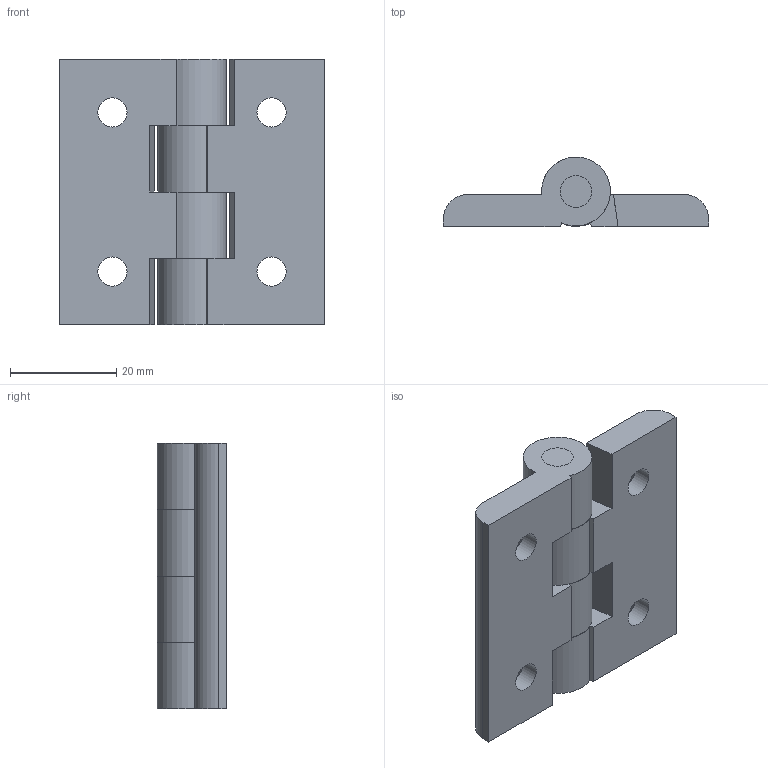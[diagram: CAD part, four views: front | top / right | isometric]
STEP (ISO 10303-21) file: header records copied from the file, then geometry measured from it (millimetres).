
FILE_DESCRIPTION (( 'STEP AP214' ), '1' );
FILE_NAME ('F70123.step', '2024-12-03T16:18:26', ( '' ), ( '' ), 'SwSTEP 2.0', 'SolidWorks 2023', '' );
FILE_SCHEMA (( 'AUTOMOTIVE_DESIGN' ));
Length unit declared in the file: millimetre
Products named in the file (3): F70123 axe charniere; F70123 Charnière inox; F70123
Assembly tree (3 placements, depth 2):
  F70123
    F70123 Charnière inox  x2
    F70123 axe charniere
Bounding box: 50 x 13.08 x 50 mm (x, y, z)
Volume: 16599.7 mm3; surface area: 9678.4 mm2
Topology: 3 solids, 3 shells, 45 faces, 119 edges, 80 vertices
Faces by surface type: plane 26, cylinder 15, cone 4
Full cylindrical faces by diameter (mm): 5.5 x4, 6 x5
Entity records: 781 total; most frequent: DIRECTION 129, CARTESIAN_POINT 119, ORIENTED_EDGE 102, EDGE_CURVE 51, AXIS2_PLACEMENT_3D 48, EDGE_LOOP 39, VERTEX_POINT 38, VECTOR 33
